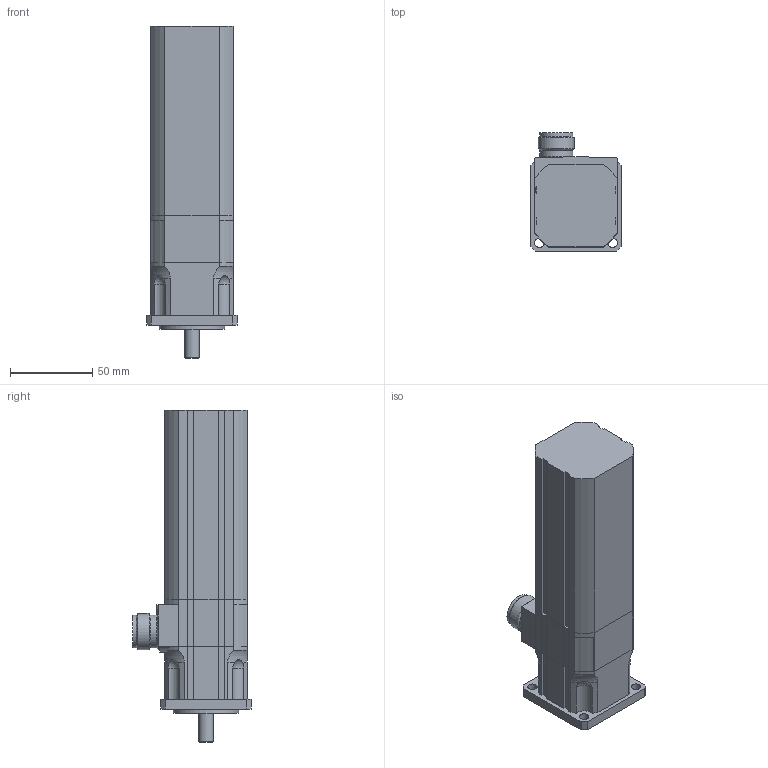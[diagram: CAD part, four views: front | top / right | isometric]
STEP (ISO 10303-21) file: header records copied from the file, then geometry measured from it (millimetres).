
FILE_DESCRIPTION(/* description */ ('Alibre Inc.'),/* implementation_level */ '2;1');
FILE_NAME(/* name */ 'export0',/* time_stamp */ '2011-03-11T09:27:29+01:00',/* author */ (''),/* organization */ (''),/* preprocessor_version */ 'ST-DEVELOPER v12',/* originating_system */ 'Alibre',/* authorisation */ '');
FILE_SCHEMA (('ALIBRE_SCHEMA','CONFIG_CONTROL_DESIGN'));
Length unit declared in the file: millimetre
Products named in the file (4): ID_1
Bounding box: 55 x 72.01 x 202 mm (x, y, z)
Volume: 529586.3 mm3; surface area: 62323.4 mm2
Topology: 3 solids, 3 shells, 159 faces, 426 edges, 281 vertices
Faces by surface type: cylinder 70, plane 68, bspline 9, cone 4, sphere 4, torus 4
Full cylindrical faces by diameter (mm): 2.7 x4, 9 x1, 20 x3, 22 x2, 26 x1, 40 x1
Entity records: 17413 total; most frequent: CARTESIAN_POINT 4767, ORIENTED_EDGE 2104, DIRECTION 2070, EDGE_CURVE 1052, AXIS2_PLACEMENT_3D 806, VERTEX_POINT 727, VECTOR 637, LINE 605
